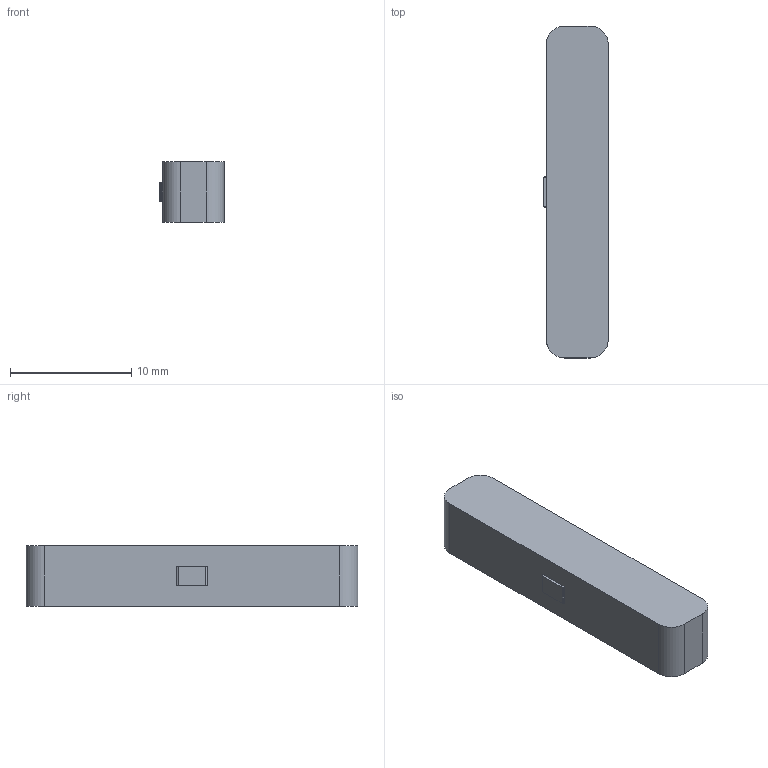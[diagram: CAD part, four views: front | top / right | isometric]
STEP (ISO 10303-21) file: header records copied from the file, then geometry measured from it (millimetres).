
FILE_DESCRIPTION(('Open CASCADE Model'),'2;1');
FILE_NAME('Open CASCADE Shape Model','2026-11-21T14:29:37',('Author'),( 'Open CASCADE'),'Open CASCADE STEP processor 7.9','Open CASCADE 7.9' ,'Unknown');
FILE_SCHEMA(('AUTOMOTIVE_DESIGN { 1 0 10303 214 1 1 1 1 }'));
Length unit declared in the file: millimetre
Products named in the file (3): Speed_seesaw; Pivoting rocker cap fit model; Center index
Assembly tree (2 placements, depth 2):
  Speed_seesaw
    Pivoting rocker cap fit model
    Center index
Bounding box: 5.32 x 27.4 x 5 mm (x, y, z)
Volume: 478.4 mm3; surface area: 736.2 mm2
Topology: 2 solids, 2 shells, 29 faces, 72 edges, 48 vertices
Faces by surface type: plane 17, cylinder 12
Entity records: 1896 total; most frequent: CARTESIAN_POINT 376, DIRECTION 284, LINE 160, VECTOR 160, ORIENTED_EDGE 144, PCURVE 144, DEFINITIONAL_REPRESENTATION 144, EDGE_CURVE 72
